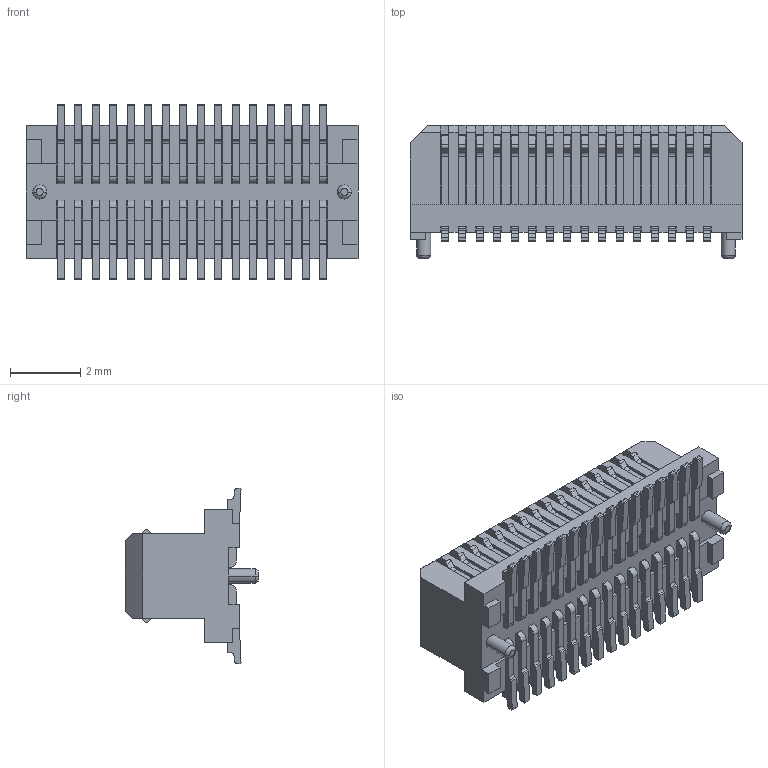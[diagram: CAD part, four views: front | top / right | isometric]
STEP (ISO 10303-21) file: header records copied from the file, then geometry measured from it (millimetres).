
FILE_DESCRIPTION (( 'STEP AP203' ), '1' );
FILE_NAME ('20501HV-216M-5AR01.stp', '2024-03-15T09:16:46', ( '' ), ( '' ), 'SwSTEP 2.0', 'SolidWorks 2023', '' );
FILE_SCHEMA (( 'CONFIG_CONTROL_DESIGN' ));
Products named in the file (1): 20501HV-216M-5AR01
Bounding box: 9.48 x 3.8 x 5 mm (x, y, z)
Volume: 74.2 mm3; surface area: 460.5 mm2
Topology: 1 solids, 1 shells, 2414 faces, 7518 edges, 4968 vertices
Faces by surface type: plane 1596, cylinder 612, bspline 78, sphere 64, torus 64
Entity records: 87043 total; most frequent: CARTESIAN_POINT 20459, ORIENTED_EDGE 14780, DIRECTION 12892, EDGE_CURVE 7390, VECTOR 5370, LINE 5370, VERTEX_POINT 4904, AXIS2_PLACEMENT_3D 3761
